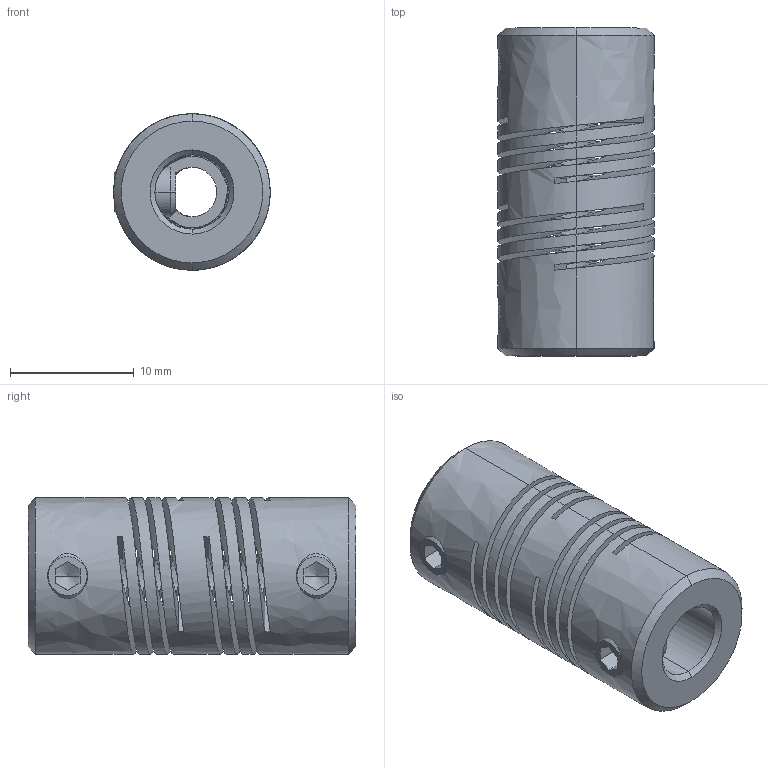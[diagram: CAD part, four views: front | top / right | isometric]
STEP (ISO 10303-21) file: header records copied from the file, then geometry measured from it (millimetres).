
FILE_DESCRIPTION((''),'2;1');
FILE_NAME('710_19','2026-02-24T',('SYSTEM'),(''),'PRO/ENGINEER BY PARAMETRIC TECHNOLOGY CORPORATION, 2016360','PRO/ENGINEER BY PARAMETRIC TECHNOLOGY CORPORATION, 2016360','');
FILE_SCHEMA(('AUTOMOTIVE_DESIGN { 1 0 10303 214 1 1 1 1 }'));
Length unit declared in the file: inch
Products named in the file (1): 710_19
Bounding box: 12.65 x 26.5 x 12.65 mm (x, y, z)
Volume: 2372 mm3; surface area: 3030.3 mm2
Topology: 1 solids, 1 shells, 102 faces, 302 edges, 194 vertices
Faces by surface type: bspline 102
Entity records: 7412 total; most frequent: CARTESIAN_POINT 5068, ORIENTED_EDGE 596, EDGE_CURVE 298, B_SPLINE_CURVE_WITH_KNOTS 207, VERTEX_POINT 194, EDGE_LOOP 112, COLOUR_RGB 111, FACE_OUTER_BOUND 102
